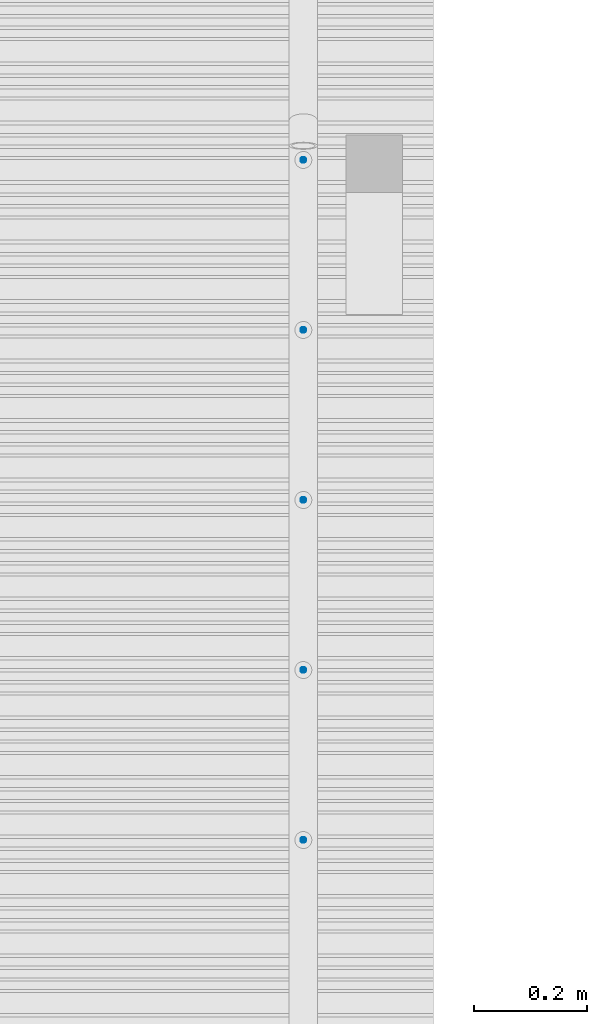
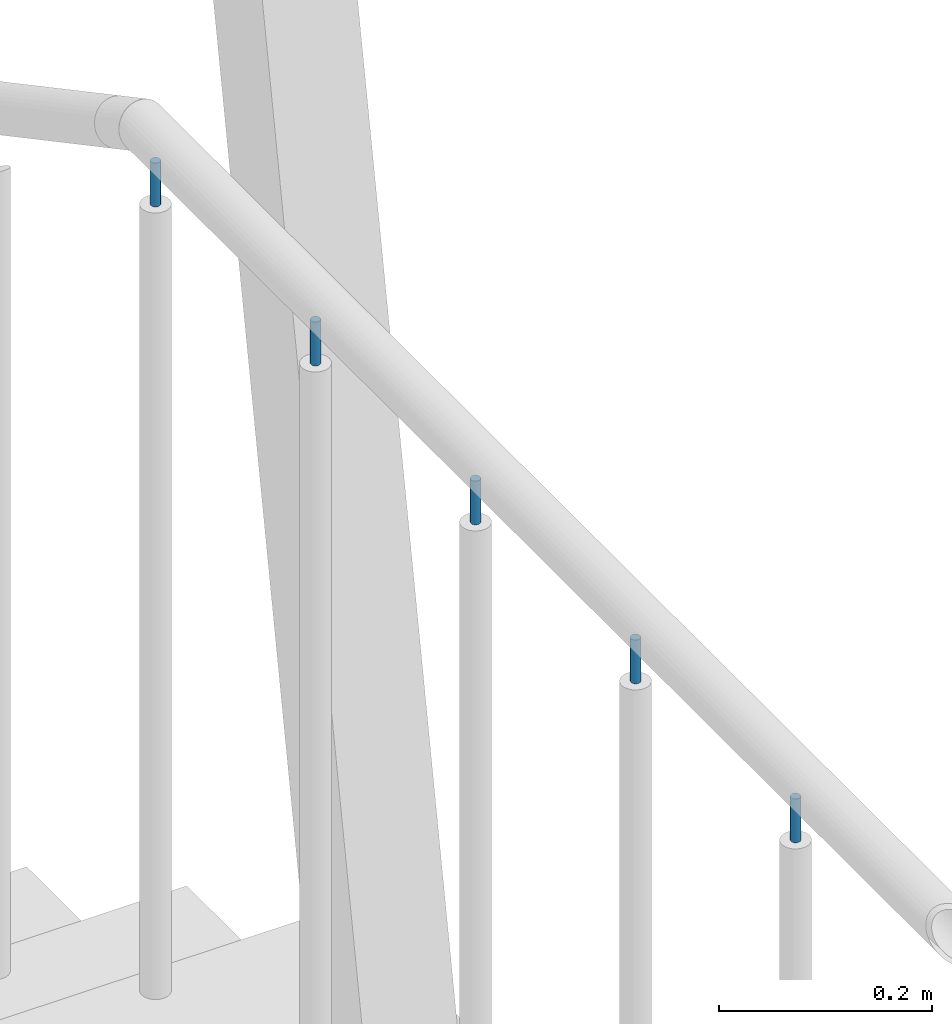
# One storey, part 123 of 418: 1 building element part, 2 elements without a shape of their own.
"""IFC2X3 building model written with IfcOpenShell, lengths in millimetres."""

from ifc_helpers import new_model, entity, si_unit, converted_unit, derived_unit, money_unit, direction, frame, origin_with_axes, place, context, subcontext, project, spatial, faceted_brep, material, type_object, element, aggregate, save


model = new_model("IFC2X3")

# Units and contexts
model_context = context("Model", 3, precision=0.01, world=origin_with_axes(), true_north=direction((0.0, 1.0)))
body_context = subcontext(model_context, "Body", "Model", "MODEL_VIEW")
ifc_project = project(units=[si_unit("LENGTHUNIT", "METRE", prefix="MILLI"), si_unit("AREAUNIT", "SQUARE_METRE"), si_unit("VOLUMEUNIT", "CUBIC_METRE"), converted_unit("PLANEANGLEUNIT", "DEGREE", entity("IfcPlaneAngleMeasure", 0.0174532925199), si_unit("PLANEANGLEUNIT", "RADIAN"), dimensions=[0, 0, 0, 0, 0, 0, 0]), si_unit("SOLIDANGLEUNIT", "STERADIAN"), money_unit("EUR"), converted_unit("TIMEUNIT", "Year", entity("IfcTimeMeasure", 31556926.0), si_unit("TIMEUNIT", "SECOND"), dimensions=[0, 0, 1, 0, 0, 0, 0]), si_unit("MASSUNIT", "GRAM", prefix="KILO"), si_unit("THERMODYNAMICTEMPERATUREUNIT", "DEGREE_CELSIUS"), si_unit("LUMINOUSINTENSITYUNIT", "LUMEN"), si_unit("ENERGYUNIT", "JOULE", prefix="MEGA"), derived_unit("THERMALCONDUCTANCEUNIT", [(si_unit("POWERUNIT", "WATT"), 1), (si_unit("LENGTHUNIT", "METRE"), -1), (si_unit("THERMODYNAMICTEMPERATUREUNIT", "KELVIN"), -1)]), derived_unit("SPECIFICHEATCAPACITYUNIT", [(si_unit("ENERGYUNIT", "JOULE"), 1), (si_unit("MASSUNIT", "GRAM", prefix="KILO"), -1), (si_unit("THERMODYNAMICTEMPERATUREUNIT", "KELVIN"), -1)]), derived_unit("MASSDENSITYUNIT", [(si_unit("MASSUNIT", "GRAM", prefix="KILO"), 1), (si_unit("VOLUMEUNIT", "CUBIC_METRE"), -1)])], contexts=[model_context])

# Site, building, storey
site_placement = place(None, origin_with_axes())
site = spatial("IfcSite", under=ifc_project, at=site_placement, Name="Paldiski mnt 245/1, Tallinn, Harjumaa", CompositionType="COMPLEX")
building_placement = place(site_placement, origin_with_axes())
building = spatial("IfcBuilding", under=site, at=building_placement, Name="RKAS Hoone üldnimetus (kasutust iseloomustav) -> IFC Project Manager -> SOLIBRI", CompositionType="ELEMENT")
storey_placement = place(building_placement, origin_with_axes())
storey = spatial("IfcBuildingStorey", under=building, at=storey_placement, Name="Esimene korrus", CompositionType="ELEMENT", Elevation=0.0)

# Proxies, building element part
building_element_proxy_type_1 = type_object("IfcBuildingElementProxyType", Name="Railing Type", PredefinedType="NOTDEFINED")
proxy_1_placement = place(storey_placement, frame((-36811.0, 460.000000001, -500.846302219), z_axis=(0.0, 0.0, 1.0), x_axis=(1.0, 0.0, 0.0)))
proxy_1 = element("IfcBuildingElementProxy", 1, at=proxy_1_placement, inside=storey, type_object=building_element_proxy_type_1, Name="Trepipiire")
building_element_proxy_type_2 = type_object("IfcBuildingElementProxyType", Name="IfcBuildingElementProxy", PredefinedType="NOTDEFINED")
proxy_2_placement = place(proxy_1_placement, frame((0.0, 855.900250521, 1424.94460278), z_axis=(0.0, 0.0, 1.0), x_axis=(1.0, 0.0, 0.0)))
proxy_2 = element("IfcBuildingElementProxy", 2, at=proxy_2_placement, type_object=building_element_proxy_type_2, Name="ÜL PIIRE - 001")
aggregate(proxy_1, [proxy_2])
ifc_material = material(Name="Teras - Konstruktsioon")
building_element_part_placement = place(proxy_2_placement, origin_with_axes())
building_element_part = element("IfcBuildingElementPart", 3, at=building_element_part_placement, material=ifc_material, Name="Teras - Konstruktsioon", context=body_context, shape_type="Brep", body=[
    faceted_brep([(0.0, -422.420584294, -44.0983005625), (0.868240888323, -422.344623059, -44.0983005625), (0.868240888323, -422.344623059, 5.90169943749), (0.0, -422.420584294, 5.90169943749), (-0.868240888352, -422.344623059, -44.0983005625), (-1.71010071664, -422.119047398, -44.0983005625), (-2.50000000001, -421.750711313, -44.0983005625), (-3.21393804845, -421.25080651, -44.0983005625), (-3.83022221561, -420.634522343, -44.0983005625), (-4.33012701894, -419.920584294, -44.0983005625), (-4.69846310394, -419.130685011, -44.0983005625), (-4.92403876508, -418.288825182, -44.0983005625), (-5.00000000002, -417.420584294, -44.0983005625), (-4.92403876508, -416.552343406, -44.0983005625), (-4.69846310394, -415.710483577, -44.0983005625), (-4.33012701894, -414.920584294, -44.0983005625), (-3.83022221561, -414.206646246, -44.0983005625), (-3.21393804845, -413.590362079, -44.0983005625), (-2.50000000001, -413.090457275, -44.0983005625), (-1.71010071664, -412.72212119, -44.0983005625), (-0.868240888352, -412.496545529, -44.0983005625), (0.0, -412.420584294, -44.0983005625), (0.868240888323, -412.496545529, -44.0983005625), (1.71010071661, -412.72212119, -44.0983005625), (2.49999999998, -413.090457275, -44.0983005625), (3.21393804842, -413.590362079, -44.0983005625), (3.83022221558, -414.206646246, -44.0983005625), (4.33012701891, -414.920584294, -44.0983005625), (4.69846310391, -415.710483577, -44.0983005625), (4.92403876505, -416.552343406, -44.0983005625), (4.99999999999, -417.420584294, -44.0983005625), (4.92403876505, -418.288825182, -44.0983005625), (4.69846310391, -419.130685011, -44.0983005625), (4.33012701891, -419.920584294, -44.0983005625), (3.83022221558, -420.634522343, -44.0983005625), (3.21393804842, -421.25080651, -44.0983005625), (2.49999999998, -421.750711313, -44.0983005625), (1.71010071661, -422.119047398, -44.0983005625), (1.71010071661, -422.119047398, 5.90169943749), (2.49999999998, -421.750711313, 5.90169943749), (3.21393804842, -421.25080651, 5.90169943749), (3.83022221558, -420.634522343, 5.90169943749), (4.33012701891, -419.920584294, 5.90169943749), (4.69846310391, -419.130685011, 5.90169943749), (4.92403876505, -418.288825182, 5.90169943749), (4.99999999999, -417.420584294, 5.90169943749), (4.92403876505, -416.552343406, 5.90169943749), (4.69846310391, -415.710483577, 5.90169943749), (4.33012701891, -414.920584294, 5.90169943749), (3.83022221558, -414.206646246, 5.90169943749), (3.21393804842, -413.590362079, 5.90169943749), (2.49999999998, -413.090457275, 5.90169943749), (1.71010071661, -412.72212119, 5.90169943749), (0.868240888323, -412.496545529, 5.90169943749), (0.0, -412.420584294, 5.90169943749), (-0.868240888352, -412.496545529, 5.90169943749), (-1.71010071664, -412.72212119, 5.90169943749), (-2.50000000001, -413.090457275, 5.90169943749), (-3.21393804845, -413.590362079, 5.90169943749), (-3.83022221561, -414.206646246, 5.90169943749), (-4.33012701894, -414.920584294, 5.90169943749), (-4.69846310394, -415.710483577, 5.90169943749), (-4.92403876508, -416.552343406, 5.90169943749), (-5.00000000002, -417.420584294, 5.90169943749), (-4.92403876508, -418.288825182, 5.90169943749), (-4.69846310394, -419.130685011, 5.90169943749), (-4.33012701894, -419.920584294, 5.90169943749), (-3.83022221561, -420.634522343, 5.90169943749), (-3.21393804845, -421.25080651, 5.90169943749), (-2.50000000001, -421.750711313, 5.90169943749), (-1.71010071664, -422.119047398, 5.90169943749), (-0.868240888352, -422.344623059, 5.90169943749)], [[[0, 1, 2, 3]], [[0, 4, 5, 6, 7, 8, 9, 10, 11, 12, 13, 14, 15, 16, 17, 18, 19, 20, 21, 22, 23, 24, 25, 26, 27, 28, 29, 30, 31, 32, 33, 34, 35, 36, 37, 1]], [[1, 37, 38, 2]], [[3, 2, 38, 39, 40, 41, 42, 43, 44, 45, 46, 47, 48, 49, 50, 51, 52, 53, 54, 55, 56, 57, 58, 59, 60, 61, 62, 63, 64, 65, 66, 67, 68, 69, 70, 71]], [[4, 0, 3, 71]], [[5, 4, 71, 70]], [[6, 5, 70, 69]], [[7, 6, 69, 68]], [[8, 7, 68, 67]], [[9, 8, 67, 66]], [[10, 9, 66, 65]], [[11, 10, 65, 64]], [[12, 11, 64, 63]], [[13, 12, 63, 62]], [[14, 13, 62, 61]], [[15, 14, 61, 60]], [[16, 15, 60, 59]], [[17, 16, 59, 58]], [[18, 17, 58, 57]], [[19, 18, 57, 56]], [[20, 19, 56, 55]], [[21, 20, 55, 54]], [[22, 21, 54, 53]], [[23, 22, 53, 52]], [[24, 23, 52, 51]], [[25, 24, 51, 50]], [[26, 25, 50, 49]], [[27, 26, 49, 48]], [[28, 27, 48, 47]], [[29, 28, 47, 46]], [[30, 29, 46, 45]], [[31, 30, 45, 44]], [[32, 31, 44, 43]], [[33, 32, 43, 42]], [[34, 33, 42, 41]], [[35, 34, 41, 40]], [[36, 35, 40, 39]], [[37, 36, 39, 38]]]),
    faceted_brep([(0.0, -122.420584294, -44.0983005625), (0.86824088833, -122.344623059, -44.0983005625), (0.86824088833, -122.344623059, 5.90169943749), (0.0, -122.420584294, 5.90169943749), (-0.868240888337, -122.344623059, -44.0983005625), (-1.71010071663, -122.119047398, -44.0983005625), (-2.5, -121.750711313, -44.0983005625), (-3.21393804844, -121.25080651, -44.0983005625), (-3.8302222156, -120.634522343, -44.0983005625), (-4.33012701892, -119.920584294, -44.0983005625), (-4.69846310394, -119.130685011, -44.0983005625), (-4.92403876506, -118.288825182, -44.0983005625), (-5.0, -117.420584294, -44.0983005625), (-4.92403876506, -116.552343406, -44.0983005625), (-4.69846310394, -115.710483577, -44.0983005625), (-4.33012701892, -114.920584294, -44.0983005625), (-3.8302222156, -114.206646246, -44.0983005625), (-3.21393804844, -113.590362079, -44.0983005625), (-2.5, -113.090457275, -44.0983005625), (-1.71010071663, -112.72212119, -44.0983005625), (-0.868240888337, -112.496545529, -44.0983005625), (0.0, -112.420584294, -44.0983005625), (0.86824088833, -112.496545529, -44.0983005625), (1.71010071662, -112.72212119, -44.0983005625), (2.5, -113.090457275, -44.0983005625), (3.21393804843, -113.590362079, -44.0983005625), (3.83022221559, -114.206646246, -44.0983005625), (4.33012701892, -114.920584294, -44.0983005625), (4.69846310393, -115.710483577, -44.0983005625), (4.92403876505, -116.552343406, -44.0983005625), (5.0, -117.420584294, -44.0983005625), (4.92403876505, -118.288825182, -44.0983005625), (4.69846310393, -119.130685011, -44.0983005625), (4.33012701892, -119.920584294, -44.0983005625), (3.83022221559, -120.634522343, -44.0983005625), (3.21393804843, -121.25080651, -44.0983005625), (2.5, -121.750711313, -44.0983005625), (1.71010071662, -122.119047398, -44.0983005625), (1.71010071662, -122.119047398, 5.90169943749), (2.5, -121.750711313, 5.90169943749), (3.21393804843, -121.25080651, 5.90169943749), (3.83022221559, -120.634522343, 5.90169943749), (4.33012701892, -119.920584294, 5.90169943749), (4.69846310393, -119.130685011, 5.90169943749), (4.92403876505, -118.288825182, 5.90169943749), (5.0, -117.420584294, 5.90169943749), (4.92403876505, -116.552343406, 5.90169943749), (4.69846310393, -115.710483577, 5.90169943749), (4.33012701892, -114.920584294, 5.90169943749), (3.83022221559, -114.206646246, 5.90169943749), (3.21393804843, -113.590362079, 5.90169943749), (2.5, -113.090457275, 5.90169943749), (1.71010071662, -112.72212119, 5.90169943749), (0.86824088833, -112.496545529, 5.90169943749), (0.0, -112.420584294, 5.90169943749), (-0.868240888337, -112.496545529, 5.90169943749), (-1.71010071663, -112.72212119, 5.90169943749), (-2.5, -113.090457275, 5.90169943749), (-3.21393804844, -113.590362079, 5.90169943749), (-3.8302222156, -114.206646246, 5.90169943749), (-4.33012701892, -114.920584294, 5.90169943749), (-4.69846310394, -115.710483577, 5.90169943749), (-4.92403876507, -116.552343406, 5.90169943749), (-5.0, -117.420584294, 5.90169943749), (-4.92403876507, -118.288825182, 5.90169943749), (-4.69846310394, -119.130685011, 5.90169943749), (-4.33012701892, -119.920584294, 5.90169943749), (-3.8302222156, -120.634522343, 5.90169943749), (-3.21393804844, -121.25080651, 5.90169943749), (-2.5, -121.750711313, 5.90169943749), (-1.71010071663, -122.119047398, 5.90169943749), (-0.868240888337, -122.344623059, 5.90169943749)], [[[0, 1, 2, 3]], [[0, 4, 5, 6, 7, 8, 9, 10, 11, 12, 13, 14, 15, 16, 17, 18, 19, 20, 21, 22, 23, 24, 25, 26, 27, 28, 29, 30, 31, 32, 33, 34, 35, 36, 37, 1]], [[1, 37, 38, 2]], [[3, 2, 38, 39, 40, 41, 42, 43, 44, 45, 46, 47, 48, 49, 50, 51, 52, 53, 54, 55, 56, 57, 58, 59, 60, 61, 62, 63, 64, 65, 66, 67, 68, 69, 70, 71]], [[4, 0, 3, 71]], [[5, 4, 71, 70]], [[6, 5, 70, 69]], [[7, 6, 69, 68]], [[8, 7, 68, 67]], [[9, 8, 67, 66]], [[10, 9, 66, 65]], [[11, 10, 65, 64]], [[12, 11, 64, 63]], [[13, 12, 63, 62]], [[14, 13, 62, 61]], [[15, 14, 61, 60]], [[16, 15, 60, 59]], [[17, 16, 59, 58]], [[18, 17, 58, 57]], [[19, 18, 57, 56]], [[20, 19, 56, 55]], [[21, 20, 55, 54]], [[22, 21, 54, 53]], [[23, 22, 53, 52]], [[24, 23, 52, 51]], [[25, 24, 51, 50]], [[26, 25, 50, 49]], [[27, 26, 49, 48]], [[28, 27, 48, 47]], [[29, 28, 47, 46]], [[30, 29, 46, 45]], [[31, 30, 45, 44]], [[32, 31, 44, 43]], [[33, 32, 43, 42]], [[34, 33, 42, 41]], [[35, 34, 41, 40]], [[36, 35, 40, 39]], [[37, 36, 39, 38]]]),
    faceted_brep([(0.0, 177.579415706, -44.0983005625), (0.868240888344, 177.655376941, -44.0983005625), (0.868240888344, 177.655376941, 5.90169943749), (0.0, 177.579415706, 5.90169943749), (-0.86824088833, 177.655376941, -44.0983005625), (-1.71010071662, 177.880952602, -44.0983005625), (-2.49999999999, 178.249288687, -44.0983005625), (-3.21393804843, 178.74919349, -44.0983005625), (-3.83022221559, 179.365477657, -44.0983005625), (-4.33012701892, 180.079415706, -44.0983005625), (-4.69846310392, 180.869314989, -44.0983005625), (-4.92403876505, 181.711174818, -44.0983005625), (-5.0, 182.579415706, -44.0983005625), (-4.92403876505, 183.447656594, -44.0983005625), (-4.69846310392, 184.289516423, -44.0983005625), (-4.33012701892, 185.079415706, -44.0983005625), (-3.83022221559, 185.793353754, -44.0983005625), (-3.21393804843, 186.409637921, -44.0983005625), (-2.49999999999, 186.909542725, -44.0983005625), (-1.71010071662, 187.27787881, -44.0983005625), (-0.86824088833, 187.503454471, -44.0983005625), (0.0, 187.579415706, -44.0983005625), (0.868240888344, 187.503454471, -44.0983005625), (1.71010071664, 187.27787881, -44.0983005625), (2.5, 186.909542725, -44.0983005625), (3.21393804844, 186.409637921, -44.0983005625), (3.8302222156, 185.793353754, -44.0983005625), (4.33012701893, 185.079415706, -44.0983005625), (4.69846310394, 184.289516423, -44.0983005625), (4.92403876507, 183.447656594, -44.0983005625), (5.00000000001, 182.579415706, -44.0983005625), (4.92403876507, 181.711174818, -44.0983005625), (4.69846310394, 180.869314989, -44.0983005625), (4.33012701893, 180.079415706, -44.0983005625), (3.8302222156, 179.365477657, -44.0983005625), (3.21393804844, 178.74919349, -44.0983005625), (2.5, 178.249288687, -44.0983005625), (1.71010071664, 177.880952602, -44.0983005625), (1.71010071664, 177.880952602, 5.90169943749), (2.5, 178.249288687, 5.90169943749), (3.21393804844, 178.74919349, 5.90169943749), (3.8302222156, 179.365477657, 5.90169943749), (4.33012701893, 180.079415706, 5.90169943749), (4.69846310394, 180.869314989, 5.90169943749), (4.92403876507, 181.711174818, 5.90169943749), (5.00000000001, 182.579415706, 5.90169943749), (4.92403876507, 183.447656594, 5.90169943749), (4.69846310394, 184.289516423, 5.90169943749), (4.33012701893, 185.079415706, 5.90169943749), (3.8302222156, 185.793353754, 5.90169943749), (3.21393804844, 186.409637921, 5.90169943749), (2.5, 186.909542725, 5.90169943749), (1.71010071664, 187.27787881, 5.90169943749), (0.868240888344, 187.503454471, 5.90169943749), (0.0, 187.579415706, 5.90169943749), (-0.86824088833, 187.503454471, 5.90169943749), (-1.71010071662, 187.27787881, 5.90169943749), (-2.49999999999, 186.909542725, 5.90169943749), (-3.21393804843, 186.409637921, 5.90169943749), (-3.83022221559, 185.793353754, 5.90169943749), (-4.33012701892, 185.079415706, 5.90169943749), (-4.69846310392, 184.289516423, 5.90169943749), (-4.92403876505, 183.447656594, 5.90169943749), (-5.0, 182.579415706, 5.90169943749), (-4.92403876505, 181.711174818, 5.90169943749), (-4.69846310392, 180.869314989, 5.90169943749), (-4.33012701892, 180.079415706, 5.90169943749), (-3.83022221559, 179.365477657, 5.90169943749), (-3.21393804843, 178.74919349, 5.90169943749), (-2.49999999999, 178.249288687, 5.90169943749), (-1.71010071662, 177.880952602, 5.90169943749), (-0.86824088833, 177.655376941, 5.90169943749)], [[[0, 1, 2, 3]], [[0, 4, 5, 6, 7, 8, 9, 10, 11, 12, 13, 14, 15, 16, 17, 18, 19, 20, 21, 22, 23, 24, 25, 26, 27, 28, 29, 30, 31, 32, 33, 34, 35, 36, 37, 1]], [[1, 37, 38, 2]], [[3, 2, 38, 39, 40, 41, 42, 43, 44, 45, 46, 47, 48, 49, 50, 51, 52, 53, 54, 55, 56, 57, 58, 59, 60, 61, 62, 63, 64, 65, 66, 67, 68, 69, 70, 71]], [[4, 0, 3, 71]], [[5, 4, 71, 70]], [[6, 5, 70, 69]], [[7, 6, 69, 68]], [[8, 7, 68, 67]], [[9, 8, 67, 66]], [[10, 9, 66, 65]], [[11, 10, 65, 64]], [[12, 11, 64, 63]], [[13, 12, 63, 62]], [[14, 13, 62, 61]], [[15, 14, 61, 60]], [[16, 15, 60, 59]], [[17, 16, 59, 58]], [[18, 17, 58, 57]], [[19, 18, 57, 56]], [[20, 19, 56, 55]], [[21, 20, 55, 54]], [[22, 21, 54, 53]], [[23, 22, 53, 52]], [[24, 23, 52, 51]], [[25, 24, 51, 50]], [[26, 25, 50, 49]], [[27, 26, 49, 48]], [[28, 27, 48, 47]], [[29, 28, 47, 46]], [[30, 29, 46, 45]], [[31, 30, 45, 44]], [[32, 31, 44, 43]], [[33, 32, 43, 42]], [[34, 33, 42, 41]], [[35, 34, 41, 40]], [[36, 35, 40, 39]], [[37, 36, 39, 38]]]),
    faceted_brep([(0.0, 477.579415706, -44.0983005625), (0.868240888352, 477.655376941, -44.0983005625), (0.868240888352, 477.655376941, 5.90169943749), (0.0, 477.579415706, 5.90169943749), (-0.868240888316, 477.655376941, -44.0983005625), (-1.71010071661, 477.880952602, -44.0983005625), (-2.49999999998, 478.249288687, -44.0983005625), (-3.21393804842, 478.74919349, -44.0983005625), (-3.83022221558, 479.365477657, -44.0983005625), (-4.3301270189, 480.079415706, -44.0983005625), (-4.69846310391, 480.869314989, -44.0983005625), (-4.92403876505, 481.711174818, -44.0983005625), (-4.99999999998, 482.579415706, -44.0983005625), (-4.92403876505, 483.447656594, -44.0983005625), (-4.69846310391, 484.289516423, -44.0983005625), (-4.3301270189, 485.079415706, -44.0983005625), (-3.83022221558, 485.793353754, -44.0983005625), (-3.21393804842, 486.409637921, -44.0983005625), (-2.49999999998, 486.909542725, -44.0983005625), (-1.71010071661, 487.27787881, -44.0983005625), (-0.868240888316, 487.503454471, -44.0983005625), (0.0, 487.579415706, -44.0983005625), (0.868240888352, 487.503454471, -44.0983005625), (1.71010071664, 487.27787881, -44.0983005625), (2.50000000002, 486.909542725, -44.0983005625), (3.21393804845, 486.409637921, -44.0983005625), (3.83022221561, 485.793353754, -44.0983005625), (4.33012701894, 485.079415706, -44.0983005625), (4.69846310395, 484.289516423, -44.0983005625), (4.92403876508, 483.447656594, -44.0983005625), (5.00000000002, 482.579415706, -44.0983005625), (4.92403876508, 481.711174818, -44.0983005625), (4.69846310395, 480.869314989, -44.0983005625), (4.33012701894, 480.079415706, -44.0983005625), (3.83022221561, 479.365477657, -44.0983005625), (3.21393804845, 478.74919349, -44.0983005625), (2.50000000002, 478.249288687, -44.0983005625), (1.71010071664, 477.880952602, -44.0983005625), (1.71010071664, 477.880952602, 5.90169943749), (2.50000000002, 478.249288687, 5.90169943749), (3.21393804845, 478.74919349, 5.90169943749), (3.83022221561, 479.365477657, 5.90169943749), (4.33012701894, 480.079415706, 5.90169943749), (4.69846310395, 480.869314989, 5.90169943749), (4.92403876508, 481.711174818, 5.90169943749), (5.00000000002, 482.579415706, 5.90169943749), (4.92403876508, 483.447656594, 5.90169943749), (4.69846310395, 484.289516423, 5.90169943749), (4.33012701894, 485.079415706, 5.90169943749), (3.83022221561, 485.793353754, 5.90169943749), (3.21393804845, 486.409637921, 5.90169943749), (2.50000000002, 486.909542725, 5.90169943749), (1.71010071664, 487.27787881, 5.90169943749), (0.868240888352, 487.503454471, 5.90169943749), (0.0, 487.579415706, 5.90169943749), (-0.868240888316, 487.503454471, 5.90169943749), (-1.71010071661, 487.27787881, 5.90169943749), (-2.49999999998, 486.909542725, 5.90169943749), (-3.21393804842, 486.409637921, 5.90169943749), (-3.83022221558, 485.793353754, 5.90169943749), (-4.3301270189, 485.079415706, 5.90169943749), (-4.69846310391, 484.289516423, 5.90169943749), (-4.92403876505, 483.447656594, 5.90169943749), (-4.99999999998, 482.579415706, 5.90169943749), (-4.92403876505, 481.711174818, 5.90169943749), (-4.69846310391, 480.869314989, 5.90169943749), (-4.3301270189, 480.079415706, 5.90169943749), (-3.83022221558, 479.365477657, 5.90169943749), (-3.21393804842, 478.74919349, 5.90169943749), (-2.49999999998, 478.249288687, 5.90169943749), (-1.71010071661, 477.880952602, 5.90169943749), (-0.868240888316, 477.655376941, 5.90169943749)], [[[0, 1, 2, 3]], [[0, 4, 5, 6, 7, 8, 9, 10, 11, 12, 13, 14, 15, 16, 17, 18, 19, 20, 21, 22, 23, 24, 25, 26, 27, 28, 29, 30, 31, 32, 33, 34, 35, 36, 37, 1]], [[1, 37, 38, 2]], [[3, 2, 38, 39, 40, 41, 42, 43, 44, 45, 46, 47, 48, 49, 50, 51, 52, 53, 54, 55, 56, 57, 58, 59, 60, 61, 62, 63, 64, 65, 66, 67, 68, 69, 70, 71]], [[4, 0, 3, 71]], [[5, 4, 71, 70]], [[6, 5, 70, 69]], [[7, 6, 69, 68]], [[8, 7, 68, 67]], [[9, 8, 67, 66]], [[10, 9, 66, 65]], [[11, 10, 65, 64]], [[12, 11, 64, 63]], [[13, 12, 63, 62]], [[14, 13, 62, 61]], [[15, 14, 61, 60]], [[16, 15, 60, 59]], [[17, 16, 59, 58]], [[18, 17, 58, 57]], [[19, 18, 57, 56]], [[20, 19, 56, 55]], [[21, 20, 55, 54]], [[22, 21, 54, 53]], [[23, 22, 53, 52]], [[24, 23, 52, 51]], [[25, 24, 51, 50]], [[26, 25, 50, 49]], [[27, 26, 49, 48]], [[28, 27, 48, 47]], [[29, 28, 47, 46]], [[30, 29, 46, 45]], [[31, 30, 45, 44]], [[32, 31, 44, 43]], [[33, 32, 43, 42]], [[34, 33, 42, 41]], [[35, 34, 41, 40]], [[36, 35, 40, 39]], [[37, 36, 39, 38]]]),
    faceted_brep([(0.0, 777.579415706, -44.0983005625), (0.868240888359, 777.655376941, -44.0983005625), (0.868240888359, 777.655376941, 5.90169943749), (0.0, 777.579415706, 5.90169943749), (-0.868240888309, 777.655376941, -44.0983005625), (-1.7101007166, 777.880952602, -44.0983005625), (-2.49999999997, 778.249288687, -44.0983005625), (-3.2139380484, 778.74919349, -44.0983005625), (-3.83022221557, 779.365477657, -44.0983005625), (-4.3301270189, 780.079415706, -44.0983005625), (-4.6984631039, 780.869314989, -44.0983005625), (-4.92403876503, 781.711174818, -44.0983005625), (-4.99999999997, 782.579415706, -44.0983005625), (-4.92403876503, 783.447656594, -44.0983005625), (-4.6984631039, 784.289516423, -44.0983005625), (-4.3301270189, 785.079415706, -44.0983005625), (-3.83022221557, 785.793353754, -44.0983005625), (-3.2139380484, 786.409637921, -44.0983005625), (-2.49999999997, 786.909542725, -44.0983005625), (-1.7101007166, 787.27787881, -44.0983005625), (-0.868240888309, 787.503454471, -44.0983005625), (0.0, 787.579415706, -44.0983005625), (0.868240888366, 787.503454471, -44.0983005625), (1.71010071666, 787.27787881, -44.0983005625), (2.50000000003, 786.909542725, -44.0983005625), (3.21393804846, 786.409637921, -44.0983005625), (3.83022221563, 785.793353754, -44.0983005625), (4.33012701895, 785.079415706, -44.0983005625), (4.69846310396, 784.289516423, -44.0983005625), (4.92403876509, 783.447656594, -44.0983005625), (5.00000000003, 782.579415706, -44.0983005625), (4.92403876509, 781.711174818, -44.0983005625), (4.69846310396, 780.869314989, -44.0983005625), (4.33012701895, 780.079415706, -44.0983005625), (3.83022221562, 779.365477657, -44.0983005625), (3.21393804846, 778.74919349, -44.0983005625), (2.50000000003, 778.249288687, -44.0983005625), (1.71010071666, 777.880952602, -44.0983005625), (1.71010071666, 777.880952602, 5.90169943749), (2.50000000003, 778.249288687, 5.90169943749), (3.21393804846, 778.74919349, 5.90169943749), (3.83022221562, 779.365477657, 5.90169943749), (4.33012701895, 780.079415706, 5.90169943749), (4.69846310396, 780.869314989, 5.90169943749), (4.92403876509, 781.711174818, 5.90169943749), (5.00000000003, 782.579415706, 5.90169943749), (4.92403876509, 783.447656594, 5.90169943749), (4.69846310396, 784.289516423, 5.90169943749), (4.33012701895, 785.079415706, 5.90169943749), (3.83022221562, 785.793353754, 5.90169943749), (3.21393804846, 786.409637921, 5.90169943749), (2.50000000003, 786.909542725, 5.90169943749), (1.71010071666, 787.27787881, 5.90169943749), (0.868240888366, 787.503454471, 5.90169943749), (0.0, 787.579415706, 5.90169943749), (-0.868240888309, 787.503454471, 5.90169943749), (-1.7101007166, 787.27787881, 5.90169943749), (-2.49999999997, 786.909542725, 5.90169943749), (-3.2139380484, 786.409637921, 5.90169943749), (-3.83022221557, 785.793353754, 5.90169943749), (-4.3301270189, 785.079415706, 5.90169943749), (-4.6984631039, 784.289516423, 5.90169943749), (-4.92403876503, 783.447656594, 5.90169943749), (-4.99999999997, 782.579415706, 5.90169943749), (-4.92403876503, 781.711174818, 5.90169943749), (-4.6984631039, 780.869314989, 5.90169943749), (-4.3301270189, 780.079415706, 5.90169943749), (-3.83022221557, 779.365477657, 5.90169943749), (-3.2139380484, 778.74919349, 5.90169943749), (-2.49999999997, 778.249288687, 5.90169943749), (-1.7101007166, 777.880952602, 5.90169943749), (-0.868240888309, 777.655376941, 5.90169943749)], [[[0, 1, 2, 3]], [[0, 4, 5, 6, 7, 8, 9, 10, 11, 12, 13, 14, 15, 16, 17, 18, 19, 20, 21, 22, 23, 24, 25, 26, 27, 28, 29, 30, 31, 32, 33, 34, 35, 36, 37, 1]], [[1, 37, 38, 2]], [[3, 2, 38, 39, 40, 41, 42, 43, 44, 45, 46, 47, 48, 49, 50, 51, 52, 53, 54, 55, 56, 57, 58, 59, 60, 61, 62, 63, 64, 65, 66, 67, 68, 69, 70, 71]], [[4, 0, 3, 71]], [[5, 4, 71, 70]], [[6, 5, 70, 69]], [[7, 6, 69, 68]], [[8, 7, 68, 67]], [[9, 8, 67, 66]], [[10, 9, 66, 65]], [[11, 10, 65, 64]], [[12, 11, 64, 63]], [[13, 12, 63, 62]], [[14, 13, 62, 61]], [[15, 14, 61, 60]], [[16, 15, 60, 59]], [[17, 16, 59, 58]], [[18, 17, 58, 57]], [[19, 18, 57, 56]], [[20, 19, 56, 55]], [[21, 20, 55, 54]], [[22, 21, 54, 53]], [[23, 22, 53, 52]], [[24, 23, 52, 51]], [[25, 24, 51, 50]], [[26, 25, 50, 49]], [[27, 26, 49, 48]], [[28, 27, 48, 47]], [[29, 28, 47, 46]], [[30, 29, 46, 45]], [[31, 30, 45, 44]], [[32, 31, 44, 43]], [[33, 32, 43, 42]], [[34, 33, 42, 41]], [[35, 34, 41, 40]], [[36, 35, 40, 39]], [[37, 36, 39, 38]]]),
])
aggregate(proxy_2, [building_element_part])

save(model, "model.ifc")
